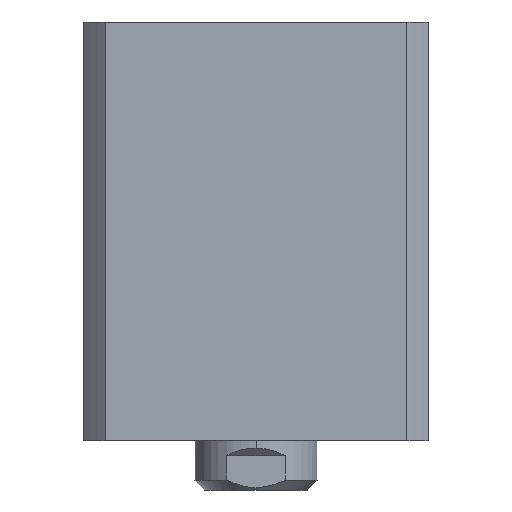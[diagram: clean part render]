
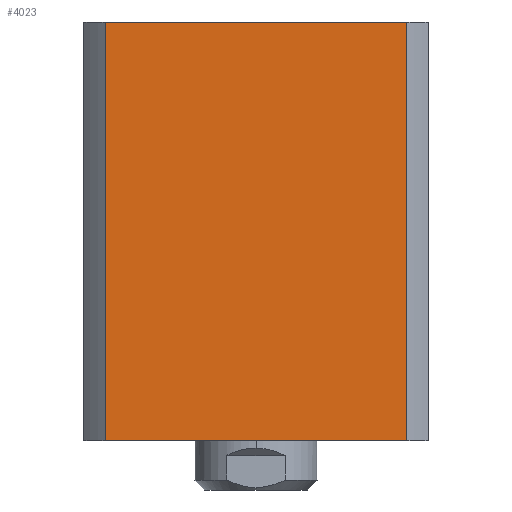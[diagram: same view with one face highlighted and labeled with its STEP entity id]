
A CAD part, front view. The second image highlights one B-rep face of the part: STEP entity #4023.
In plain terms, the highlighted planar face has unit normal (0, -1, 0) as drawn and (1, 0, 0) by its records, which use the part's own axes.
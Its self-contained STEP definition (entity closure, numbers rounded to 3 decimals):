
#1022 = EDGE_LOOP ( 'NONE', ( #4072, #3703, #7852, #6402 ) ) ;
#1227 = CARTESIAN_POINT ( 'NONE',  ( 35., 35., 85. ) ) ;
#1542 = LINE ( 'NONE', #6354, #3636 ) ;
#2838 = CARTESIAN_POINT ( 'NONE',  ( 35., -30.615, 0. ) ) ;
#3243 = VECTOR ( 'NONE', #5407, 1000. ) ;
#3333 = PLANE ( 'NONE',  #9750 ) ;
#3636 = VECTOR ( 'NONE', #8650, 1000. ) ;
#3703 = ORIENTED_EDGE ( 'NONE', *, *, #5469, .F. ) ;
#4023 = ADVANCED_FACE ( 'NONE', ( #4380 ), #3333, .F. ) ;
#4072 = ORIENTED_EDGE ( 'NONE', *, *, #5164, .F. ) ;
#4123 = DIRECTION ( 'NONE',  ( 0., 0., 1. ) ) ;
#4380 = FACE_OUTER_BOUND ( 'NONE', #1022, .T. ) ;
#4640 = CARTESIAN_POINT ( 'NONE',  ( 35., -30.615, 85. ) ) ;
#4705 = VECTOR ( 'NONE', #6701, 1000. ) ;
#4747 = CARTESIAN_POINT ( 'NONE',  ( 35., 30.615, 0. ) ) ;
#4821 = CARTESIAN_POINT ( 'NONE',  ( 35., 30.615, 85. ) ) ;
#5164 = EDGE_CURVE ( 'NONE', #5235, #9699, #1542, .T. ) ;
#5219 = DIRECTION ( 'NONE',  ( 0., 1., 0. ) ) ;
#5235 = VERTEX_POINT ( 'NONE', #4821 ) ;
#5407 = DIRECTION ( 'NONE',  ( 0., 0., 1. ) ) ;
#5469 = EDGE_CURVE ( 'NONE', #6770, #5235, #8590, .T. ) ;
#5597 = EDGE_CURVE ( 'NONE', #9382, #9699, #5823, .T. ) ;
#5637 = CARTESIAN_POINT ( 'NONE',  ( 35., 35., 85. ) ) ;
#5823 = LINE ( 'NONE', #9880, #9952 ) ;
#5828 = EDGE_CURVE ( 'NONE', #9382, #6770, #8981, .T. ) ;
#6354 = CARTESIAN_POINT ( 'NONE',  ( 35., 30.615, 300. ) ) ;
#6402 = ORIENTED_EDGE ( 'NONE', *, *, #5597, .T. ) ;
#6701 = DIRECTION ( 'NONE',  ( 0., 1., 0. ) ) ;
#6770 = VERTEX_POINT ( 'NONE', #4640 ) ;
#7002 = CARTESIAN_POINT ( 'NONE',  ( 35., -30.615, 300. ) ) ;
#7852 = ORIENTED_EDGE ( 'NONE', *, *, #5828, .F. ) ;
#8590 = LINE ( 'NONE', #1227, #4705 ) ;
#8650 = DIRECTION ( 'NONE',  ( 0., 0., -1. ) ) ;
#8772 = DIRECTION ( 'NONE',  ( -1., 0., 0. ) ) ;
#8981 = LINE ( 'NONE', #7002, #3243 ) ;
#9382 = VERTEX_POINT ( 'NONE', #2838 ) ;
#9699 = VERTEX_POINT ( 'NONE', #4747 ) ;
#9750 = AXIS2_PLACEMENT_3D ( 'NONE', #5637, #8772, #4123 ) ;
#9880 = CARTESIAN_POINT ( 'NONE',  ( 35., 35., 0. ) ) ;
#9952 = VECTOR ( 'NONE', #5219, 1000. ) ;
